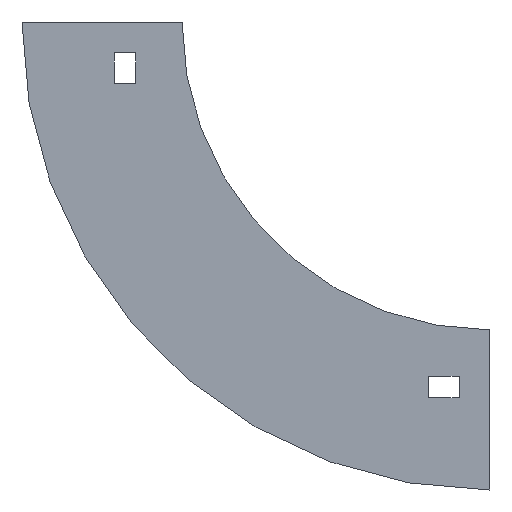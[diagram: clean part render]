
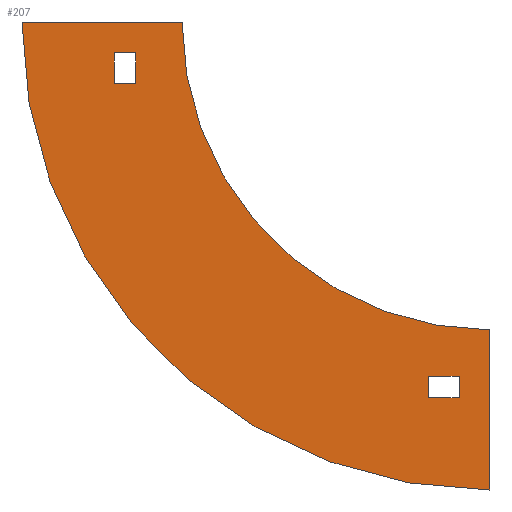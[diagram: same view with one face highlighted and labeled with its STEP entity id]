
A CAD part, left-side view. The second image highlights one B-rep face of the part: STEP entity #207.
In plain terms, the highlighted planar face has unit normal (-1, 0, 0).
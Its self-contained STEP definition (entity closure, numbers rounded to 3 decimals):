
#17 = LINE ( 'NONE', #725, #424 ) ;
#19 = VERTEX_POINT ( 'NONE', #867 ) ;
#38 = EDGE_CURVE ( 'NONE', #228, #616, #235, .T. ) ;
#56 = EDGE_CURVE ( 'NONE', #304, #258, #962, .T. ) ;
#64 = AXIS2_PLACEMENT_3D ( 'NONE', #788, #704, #965 ) ;
#66 = ORIENTED_EDGE ( 'NONE', *, *, #445, .F. ) ;
#67 = CARTESIAN_POINT ( 'NONE',  ( -152., -80., -122. ) ) ;
#80 = CIRCLE ( 'NONE', #64, 100. ) ;
#93 = DIRECTION ( 'NONE',  ( 0., -1., 0. ) ) ;
#102 = CARTESIAN_POINT ( 'NONE',  ( -152., 52., 0. ) ) ;
#108 = CIRCLE ( 'NONE', #280, 152. ) ;
#120 = DIRECTION ( 'NONE',  ( 0., 0., 1. ) ) ;
#144 = PLANE ( 'NONE',  #766 ) ;
#149 = EDGE_CURVE ( 'NONE', #616, #622, #108, .T. ) ;
#157 = LINE ( 'NONE', #975, #465 ) ;
#158 = EDGE_CURVE ( 'NONE', #371, #204, #17, .T. ) ;
#163 = CARTESIAN_POINT ( 'NONE',  ( -152., -100., -100. ) ) ;
#167 = DIRECTION ( 'NONE',  ( 0., 0., -1. ) ) ;
#175 = VECTOR ( 'NONE', #93, 1000. ) ;
#194 = VECTOR ( 'NONE', #612, 1000. ) ;
#204 = VERTEX_POINT ( 'NONE', #796 ) ;
#205 = VERTEX_POINT ( 'NONE', #682 ) ;
#207 = ADVANCED_FACE ( 'NONE', ( #958, #779, #1052 ), #144, .T. ) ;
#216 = CARTESIAN_POINT ( 'NONE',  ( -152., -80., -115. ) ) ;
#228 = VERTEX_POINT ( 'NONE', #163 ) ;
#231 = CARTESIAN_POINT ( 'NONE',  ( -152., -90., -122. ) ) ;
#235 = LINE ( 'NONE', #1135, #439 ) ;
#243 = DIRECTION ( 'NONE',  ( 0., -1., 0. ) ) ;
#245 = DIRECTION ( 'NONE',  ( 0., -1., 0. ) ) ;
#258 = VERTEX_POINT ( 'NONE', #67 ) ;
#280 = AXIS2_PLACEMENT_3D ( 'NONE', #718, #608, #1079 ) ;
#297 = ORIENTED_EDGE ( 'NONE', *, *, #458, .F. ) ;
#303 = LINE ( 'NONE', #231, #717 ) ;
#304 = VERTEX_POINT ( 'NONE', #216 ) ;
#329 = LINE ( 'NONE', #443, #427 ) ;
#334 = LINE ( 'NONE', #881, #194 ) ;
#337 = DIRECTION ( 'NONE',  ( 0., 0., 1. ) ) ;
#338 = DIRECTION ( 'NONE',  ( 0., 1., 0. ) ) ;
#371 = VERTEX_POINT ( 'NONE', #764 ) ;
#380 = VECTOR ( 'NONE', #589, 1000. ) ;
#415 = CARTESIAN_POINT ( 'NONE',  ( -152., -80., -122. ) ) ;
#417 = EDGE_LOOP ( 'NONE', ( #66, #708, #297, #547 ) ) ;
#424 = VECTOR ( 'NONE', #971, 1000. ) ;
#427 = VECTOR ( 'NONE', #245, 1000. ) ;
#434 = LINE ( 'NONE', #797, #677 ) ;
#437 = CARTESIAN_POINT ( 'NONE',  ( -152., 52., 0. ) ) ;
#439 = VECTOR ( 'NONE', #1128, 1000. ) ;
#443 = CARTESIAN_POINT ( 'NONE',  ( -152., -90., -122. ) ) ;
#445 = EDGE_CURVE ( 'NONE', #743, #304, #334, .T. ) ;
#453 = EDGE_CURVE ( 'NONE', #622, #505, #980, .T. ) ;
#458 = EDGE_CURVE ( 'NONE', #258, #1038, #329, .T. ) ;
#465 = VECTOR ( 'NONE', #167, 1000. ) ;
#484 = CARTESIAN_POINT ( 'NONE',  ( -152., -90., -115. ) ) ;
#494 = EDGE_CURVE ( 'NONE', #505, #228, #80, .T. ) ;
#505 = VERTEX_POINT ( 'NONE', #1075 ) ;
#508 = ORIENTED_EDGE ( 'NONE', *, *, #149, .F. ) ;
#509 = EDGE_CURVE ( 'NONE', #205, #19, #157, .T. ) ;
#547 = ORIENTED_EDGE ( 'NONE', *, *, #56, .F. ) ;
#574 = ORIENTED_EDGE ( 'NONE', *, *, #38, .F. ) ;
#589 = DIRECTION ( 'NONE',  ( 0., 0., -1. ) ) ;
#591 = EDGE_LOOP ( 'NONE', ( #1048, #738, #862, #781 ) ) ;
#608 = DIRECTION ( 'NONE',  ( 1., 0., 0. ) ) ;
#609 = CARTESIAN_POINT ( 'NONE',  ( -152., -100., 0. ) ) ;
#612 = DIRECTION ( 'NONE',  ( 0., 1., 0. ) ) ;
#616 = VERTEX_POINT ( 'NONE', #830 ) ;
#622 = VERTEX_POINT ( 'NONE', #102 ) ;
#677 = VECTOR ( 'NONE', #338, 1000. ) ;
#682 = CARTESIAN_POINT ( 'NONE',  ( -152., 15., -10. ) ) ;
#687 = EDGE_CURVE ( 'NONE', #1038, #743, #303, .T. ) ;
#704 = DIRECTION ( 'NONE',  ( -1., 0., 0. ) ) ;
#708 = ORIENTED_EDGE ( 'NONE', *, *, #687, .F. ) ;
#717 = VECTOR ( 'NONE', #120, 1000. ) ;
#718 = CARTESIAN_POINT ( 'NONE',  ( -152., -100., 0. ) ) ;
#725 = CARTESIAN_POINT ( 'NONE',  ( -152., 22., -10. ) ) ;
#738 = ORIENTED_EDGE ( 'NONE', *, *, #509, .T. ) ;
#743 = VERTEX_POINT ( 'NONE', #484 ) ;
#751 = VECTOR ( 'NONE', #243, 1000. ) ;
#764 = CARTESIAN_POINT ( 'NONE',  ( -152., 22., -20. ) ) ;
#766 = AXIS2_PLACEMENT_3D ( 'NONE', #609, #972, #337 ) ;
#779 = FACE_OUTER_BOUND ( 'NONE', #787, .T. ) ;
#780 = CARTESIAN_POINT ( 'NONE',  ( -152., 22., -10. ) ) ;
#781 = ORIENTED_EDGE ( 'NONE', *, *, #158, .T. ) ;
#787 = EDGE_LOOP ( 'NONE', ( #974, #893, #508, #574 ) ) ;
#788 = CARTESIAN_POINT ( 'NONE',  ( -152., -100., 0. ) ) ;
#796 = CARTESIAN_POINT ( 'NONE',  ( -152., 22., -10. ) ) ;
#797 = CARTESIAN_POINT ( 'NONE',  ( -152., 22., -20. ) ) ;
#807 = EDGE_CURVE ( 'NONE', #19, #371, #434, .T. ) ;
#830 = CARTESIAN_POINT ( 'NONE',  ( -152., -100., -152. ) ) ;
#862 = ORIENTED_EDGE ( 'NONE', *, *, #807, .T. ) ;
#867 = CARTESIAN_POINT ( 'NONE',  ( -152., 15., -20. ) ) ;
#881 = CARTESIAN_POINT ( 'NONE',  ( -152., -90., -115. ) ) ;
#882 = EDGE_CURVE ( 'NONE', #204, #205, #1047, .T. ) ;
#893 = ORIENTED_EDGE ( 'NONE', *, *, #453, .F. ) ;
#958 = FACE_BOUND ( 'NONE', #591, .T. ) ;
#962 = LINE ( 'NONE', #415, #380 ) ;
#965 = DIRECTION ( 'NONE',  ( 0., 0., 1. ) ) ;
#971 = DIRECTION ( 'NONE',  ( 0., 0., 1. ) ) ;
#972 = DIRECTION ( 'NONE',  ( -1., 0., 0. ) ) ;
#974 = ORIENTED_EDGE ( 'NONE', *, *, #494, .F. ) ;
#975 = CARTESIAN_POINT ( 'NONE',  ( -152., 15., -10. ) ) ;
#980 = LINE ( 'NONE', #437, #175 ) ;
#1038 = VERTEX_POINT ( 'NONE', #1112 ) ;
#1047 = LINE ( 'NONE', #780, #751 ) ;
#1048 = ORIENTED_EDGE ( 'NONE', *, *, #882, .T. ) ;
#1052 = FACE_BOUND ( 'NONE', #417, .T. ) ;
#1075 = CARTESIAN_POINT ( 'NONE',  ( -152., 0., 0. ) ) ;
#1079 = DIRECTION ( 'NONE',  ( 0., 0., 1. ) ) ;
#1112 = CARTESIAN_POINT ( 'NONE',  ( -152., -90., -122. ) ) ;
#1128 = DIRECTION ( 'NONE',  ( 0., 0., -1. ) ) ;
#1135 = CARTESIAN_POINT ( 'NONE',  ( -152., -100., -100. ) ) ;
